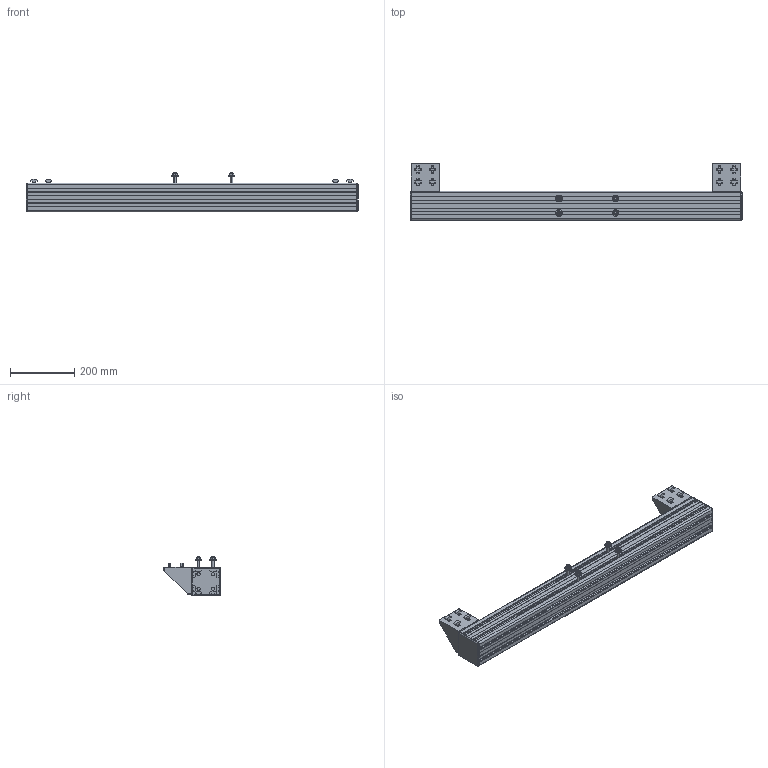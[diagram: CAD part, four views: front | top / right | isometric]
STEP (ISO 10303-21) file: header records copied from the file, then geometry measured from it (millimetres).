
FILE_DESCRIPTION (( 'STEP AP203' ), '1' );
FILE_NAME ('Asutec_75000080.STEP', '2021-11-16T08:49:10', ( '' ), ( '' ), 'SwSTEP 2.0', 'SolidWorks 2020', '' );
FILE_SCHEMA (( 'CONFIG_CONTROL_DESIGN' ));
Length unit declared in the file: millimetre
Products named in the file (1): Asutec_75000080
Bounding box: 1035.5 x 176 x 124 mm (x, y, z)
Volume: 6757975.3 mm3; surface area: 1026006.1 mm2
Topology: 9 solids, 9 shells, 1070 faces, 2896 edges, 1872 vertices
Faces by surface type: plane 782, cylinder 196, cone 76, sphere 8, bspline 8
Entity records: 35357 total; most frequent: CARTESIAN_POINT 8827, ORIENTED_EDGE 5792, DIRECTION 5126, EDGE_CURVE 2896, LINE 2016, VECTOR 2016, VERTEX_POINT 1872, AXIS2_PLACEMENT_3D 1555
